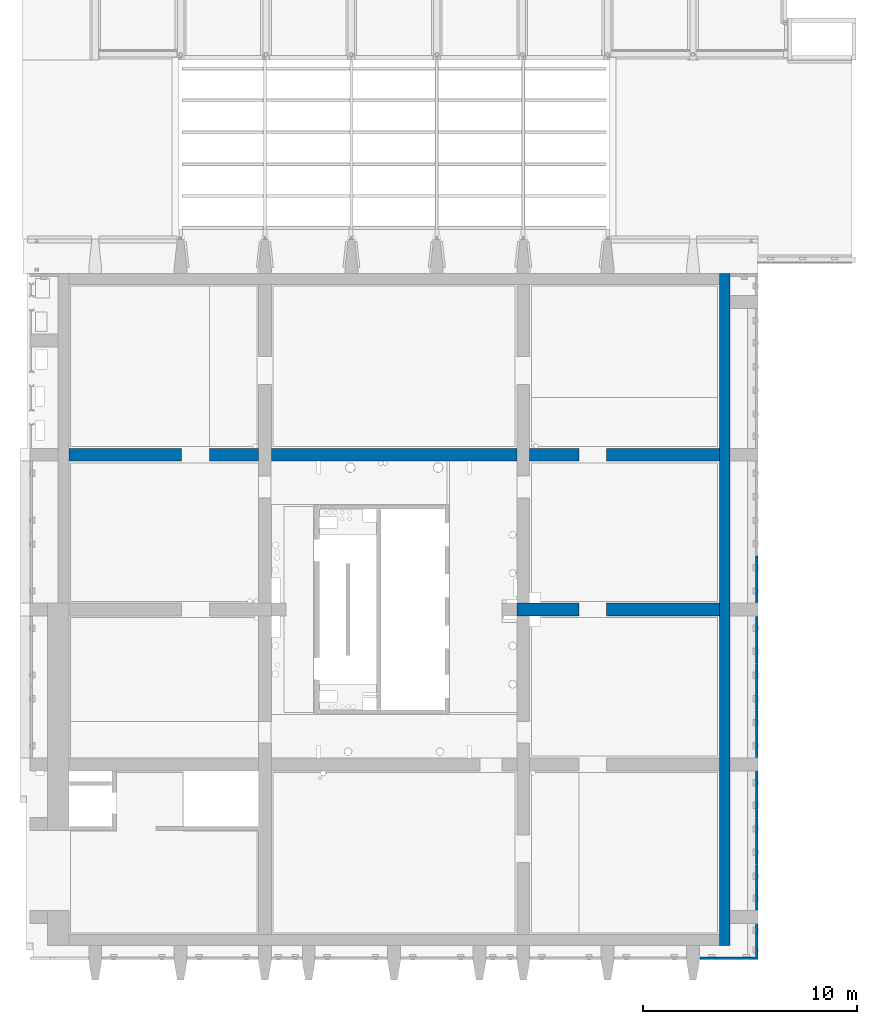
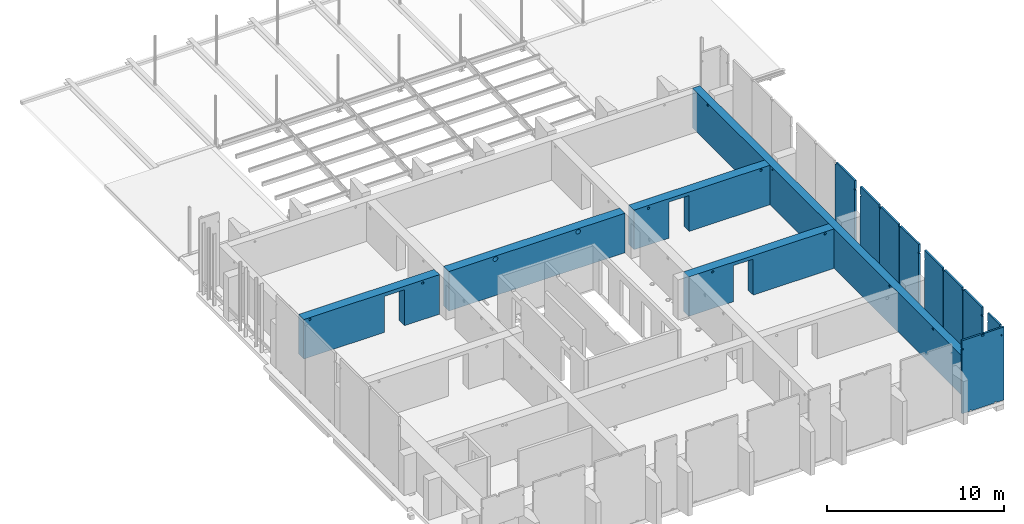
# One storey, part 28 of 31: 12 walls, 54 openings.
"""IFC2X3 building model written with IfcOpenShell, lengths in millimetres."""

from ifc_helpers import new_model, entity, si_unit, converted_unit, derived_unit, direction, frame, frame_2d, origin, origin_2d_with_axis, place, context, subcontext, project, spatial, rectangle, circle, extrude, material, layer, layer_set, layer_usage, type_object, element, save


model = new_model("IFC2X3")

# Units and contexts
model_context = context("Model", 3, precision=0.01, world=origin(), true_north=direction((6.12303176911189e-17, 1.0)))
body_context = subcontext(model_context, "Body", "Model", "MODEL_VIEW")
ifc_project = project(units=[si_unit("LENGTHUNIT", "METRE", prefix="MILLI"), si_unit("AREAUNIT", "SQUARE_METRE"), si_unit("VOLUMEUNIT", "CUBIC_METRE"), converted_unit("PLANEANGLEUNIT", "DEGREE", entity("IfcRatioMeasure", 0.0174532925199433), si_unit("PLANEANGLEUNIT", "RADIAN"), dimensions=[0, 0, 0, 0, 0, 0, 0]), si_unit("MASSUNIT", "GRAM", prefix="KILO"), derived_unit("MASSDENSITYUNIT", [(si_unit("MASSUNIT", "GRAM", prefix="KILO"), 1), (si_unit("LENGTHUNIT", "METRE"), -3)]), si_unit("TIMEUNIT", "SECOND"), si_unit("FREQUENCYUNIT", "HERTZ"), si_unit("THERMODYNAMICTEMPERATUREUNIT", "DEGREE_CELSIUS"), derived_unit("THERMALTRANSMITTANCEUNIT", [(si_unit("MASSUNIT", "GRAM", prefix="KILO"), 1), (si_unit("THERMODYNAMICTEMPERATUREUNIT", "KELVIN"), -1), (si_unit("TIMEUNIT", "SECOND"), -3)]), derived_unit("VOLUMETRICFLOWRATEUNIT", [(si_unit("LENGTHUNIT", "METRE"), 3), (si_unit("TIMEUNIT", "SECOND"), -1)]), si_unit("ELECTRICCURRENTUNIT", "AMPERE"), si_unit("ELECTRICVOLTAGEUNIT", "VOLT"), si_unit("POWERUNIT", "WATT"), si_unit("FORCEUNIT", "NEWTON", prefix="KILO"), si_unit("ILLUMINANCEUNIT", "LUX"), si_unit("LUMINOUSFLUXUNIT", "LUMEN"), si_unit("LUMINOUSINTENSITYUNIT", "CANDELA"), derived_unit("USERDEFINED", [(si_unit("MASSUNIT", "GRAM", prefix="KILO"), -1), (si_unit("LENGTHUNIT", "METRE"), -2), (si_unit("TIMEUNIT", "SECOND"), 3), (si_unit("LUMINOUSFLUXUNIT", "LUMEN"), 1)]), derived_unit("LINEARVELOCITYUNIT", [(si_unit("LENGTHUNIT", "METRE"), 1), (si_unit("TIMEUNIT", "SECOND"), -1)]), si_unit("PRESSUREUNIT", "PASCAL"), derived_unit("USERDEFINED", [(si_unit("LENGTHUNIT", "METRE"), -2), (si_unit("MASSUNIT", "GRAM", prefix="KILO"), 1), (si_unit("TIMEUNIT", "SECOND"), -2)])], contexts=[model_context])

# Site, building, storey
site_placement = place(None, origin())
site = spatial("IfcSite", under=ifc_project, at=site_placement, Name="Default", CompositionType="ELEMENT")
building_placement = place(site_placement, origin())
building = spatial("IfcBuilding", under=site, at=building_placement, Name="niet gebruiken", CompositionType="ELEMENT")
storey_placement = place(building_placement, frame((0.0, 0.0, 12000.0)))
storey = spatial("IfcBuildingStorey", under=building, at=storey_placement, Name="03 derde verdieping", CompositionType="ELEMENT", Elevation=12000.0)

# Wall, openings
ifc_material_1 = material(Name="NLRS_f2_beton ihwg")
ifc_layer_1 = layer(ifc_material_1, 600.0)
ifc_layer_set_1 = layer_set([ifc_layer_1], Name="Basic Wall:NLRS_22.21_WA_beton ihwg d=600_gen")
ifc_layer_usage_1 = layer_usage(ifc_layer_set_1, "AXIS2", "NEGATIVE", 300.0)
wall_type_1 = type_object("IfcWallType", Name="Basic Wall:NLRS_22.21_WA_beton ihwg d=600_gen", PredefinedType="STANDARD", material=ifc_layer_set_1)
wall_1_placement = place(storey_placement, frame((156980.0, 24750.0, -90.0), z_axis=(0.0, 0.0, 1.0), x_axis=(-1.0, 0.0, 0.0)))
wall_1 = element("IfcWallStandardCase", 1, at=wall_1_placement, inside=storey, type_object=wall_type_1, material=ifc_layer_usage_1, Name="Basic Wall:NLRS_22.21_WA_beton ihwg d=600_gen", ObjectType="Basic Wall:NLRS_22.21_WA_beton ihwg d=600_gen", context=body_context, shape_type="SweptSolid", body=[
    extrude(rectangle(XDim=30459.9999999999, YDim=600.000000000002, at=frame_2d((15229.9999999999, -7.95807864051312e-13), x_axis=(-1.0, 0.0))), origin(), (0.0, 0.0, 1.0), 2729.99999999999),
])
opening_1_placement = place(storey_placement, frame((156980.0, 24750.0, -90.0), z_axis=(0.0, 0.0, 1.0), x_axis=(-1.0, 0.0, 0.0)))
element("IfcOpeningElement", 2, at=opening_1_placement, cuts=wall_1, Name="Basic Wall:NLRS_22.21_WA_beton ihwg d=600_gen:1", ObjectType="Opening", context=body_context, shape_type="SweptSolid", body=[
    extrude(rectangle(XDim=2730.0, YDim=599.999999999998, at=frame_2d((-1.02318153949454e-12, -2.1600499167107e-12), x_axis=(1.0, 0.0))), frame((21580.0, 0.0, 1365.0), z_axis=(-1.0, 0.0, 0.0), x_axis=(0.0, 0.0, 1.0)), (0.0, 0.0, 1.0), 600.000000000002),
])
opening_2_placement = place(storey_placement, frame((156980.0, 24750.0, -90.0), z_axis=(0.0, 0.0, 1.0), x_axis=(-1.0, 0.0, 0.0)))
element("IfcOpeningElement", 3, at=opening_2_placement, cuts=wall_1, Name="Basic Wall:NLRS_22.21_WA_beton ihwg d=600_gen:2", ObjectType="Opening", context=body_context, shape_type="SweptSolid", body=[
    extrude(rectangle(XDim=2730.0, YDim=599.999999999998, at=frame_2d((-1.02318153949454e-12, 2.1600499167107e-12), x_axis=(1.0, 0.0))), frame((9480.0, 0.0, 1365.0), z_axis=(-1.0, 0.0, 0.0), x_axis=(0.0, 0.0, 1.0)), (0.0, 0.0, 1.0), 600.000000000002),
])
opening_3_placement = place(wall_1_placement, origin())
element("IfcOpeningElement", 4, at=opening_3_placement, cuts=wall_1, Name="Basic Wall:NLRS_22.21_WA_beton ihwg d=600_gen", ObjectType="Opening", context=body_context, shape_type="SweptSolid", body=[
    extrude(rectangle(XDim=2490.00000000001, YDim=1300.0, at=frame_2d((1.02318153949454e-12, -8.69704308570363e-12), x_axis=(1.0, 0.0))), frame((5930.0, -300.0, 1245.0), z_axis=(0.0, 1.0, 0.0), x_axis=(0.0, 0.0, -1.0)), (0.0, 0.0, 1.0), 600.000000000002),
])
opening_4_placement = place(wall_1_placement, origin())
element("IfcOpeningElement", 5, at=opening_4_placement, cuts=wall_1, Name="Basic Wall:NLRS_22.21_WA_beton ihwg d=600_gen", ObjectType="Opening", context=body_context, shape_type="SweptSolid", body=[
    extrude(rectangle(XDim=2490.0, YDim=1300.0, at=frame_2d((-8.69704308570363e-12, 0.0), x_axis=(0.0, 1.0))), frame((24530.0, -300.0, 1245.0), z_axis=(0.0, 1.0, 0.0), x_axis=(1.0, 0.0, 0.0)), (0.0, 0.0, 1.0), 600.000000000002),
])
opening_5_placement = place(wall_1_placement, origin())
element("IfcOpeningElement", 6, at=opening_5_placement, cuts=wall_1, Name="Basic Wall:NLRS_22.21_WA_beton ihwg d=600_gen", ObjectType="Opening", context=body_context, shape_type="SweptSolid", body=[
    extrude(circle(Radius=80.0, at=origin_2d_with_axis()), frame((7930.0, -300.0, 2540.0), z_axis=(0.0, 1.0, 0.0), x_axis=(-1.0, 0.0, 0.0)), (0.0, 0.0, 1.0), 600.000000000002),
])
opening_6_placement = place(wall_1_placement, origin())
element("IfcOpeningElement", 7, at=opening_6_placement, cuts=wall_1, Name="Basic Wall:NLRS_22.21_WA_beton ihwg d=600_gen", ObjectType="Opening", context=body_context, shape_type="SweptSolid", body=[
    extrude(circle(Radius=80.0, at=origin_2d_with_axis()), frame((580.0, -300.0, 2590.0), z_axis=(0.0, 1.0, 0.0), x_axis=(-1.0, 0.0, 0.0)), (0.0, 0.0, 1.0), 600.000000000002),
])
opening_7_placement = place(wall_1_placement, origin())
element("IfcOpeningElement", 8, at=opening_7_placement, cuts=wall_1, Name="Basic Wall:NLRS_22.21_WA_beton ihwg d=600_gen", ObjectType="Opening", context=body_context, shape_type="SweptSolid", body=[
    extrude(circle(Radius=157.5, at=origin_2d_with_axis()), frame((17930.0001632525, -300.0, 2530.0002334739), z_axis=(0.0, 1.0, 0.0), x_axis=(1.0, 0.0, 0.0)), (0.0, 0.0, 1.0), 600.000000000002),
])
opening_8_placement = place(wall_1_placement, origin())
element("IfcOpeningElement", 9, at=opening_8_placement, cuts=wall_1, Name="Basic Wall:NLRS_22.21_WA_beton ihwg d=600_gen", ObjectType="Opening", context=body_context, shape_type="SweptSolid", body=[
    extrude(circle(Radius=157.5, at=origin_2d_with_axis()), frame((12530.0, -300.0, 2530.00023347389), z_axis=(0.0, 1.0, 0.0), x_axis=(1.0, 0.0, 0.0)), (0.0, 0.0, 1.0), 600.000000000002),
])
opening_9_placement = place(wall_1_placement, origin())
element("IfcOpeningElement", 10, at=opening_9_placement, cuts=wall_1, Name="Basic Wall:NLRS_22.21_WA_beton ihwg d=600_gen", ObjectType="Opening", context=body_context, shape_type="SweptSolid", body=[
    extrude(circle(Radius=80.0, at=origin_2d_with_axis()), frame((22680.0, -300.0, 2540.0), z_axis=(0.0, 1.0, 0.0), x_axis=(-1.0, 0.0, 0.0)), (0.0, 0.0, 1.0), 600.000000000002),
])
opening_10_placement = place(wall_1_placement, origin())
element("IfcOpeningElement", 11, at=opening_10_placement, cuts=wall_1, Name="Basic Wall:NLRS_22.21_WA_beton ihwg d=600_gen", ObjectType="Opening", context=body_context, shape_type="SweptSolid", body=[
    extrude(circle(Radius=80.0, at=origin_2d_with_axis()), frame((30050.0, -300.0, 2590.0), z_axis=(0.0, 1.0, 0.0), x_axis=(-1.0, 0.0, 0.0)), (0.0, 0.0, 1.0), 600.000000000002),
])

ifc_layer_usage_2 = layer_usage(ifc_layer_set_1, "AXIS2", "NEGATIVE", 300.0)
wall_2_placement = place(storey_placement, frame((147500.0, 17500.0, -90.0)))
wall_2 = element("IfcWallStandardCase", 12, at=wall_2_placement, inside=storey, type_object=wall_type_1, material=ifc_layer_usage_2, Name="Basic Wall:NLRS_22.21_WA_beton ihwg d=600_gen", ObjectType="Basic Wall:NLRS_22.21_WA_beton ihwg d=600_gen", context=body_context, shape_type="SweptSolid", body=[
    extrude(rectangle(XDim=9479.99999999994, YDim=600.000000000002, at=frame_2d((4739.99999999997, -2.27373675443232e-13), x_axis=(-1.0, 0.0))), origin(), (0.0, 0.0, 1.0), 2729.99999999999),
])
opening_11_placement = place(wall_2_placement, origin())
element("IfcOpeningElement", 13, at=opening_11_placement, cuts=wall_2, Name="Basic Wall:NLRS_22.21_WA_beton ihwg d=600_gen", ObjectType="Opening", context=body_context, shape_type="SweptSolid", body=[
    extrude(rectangle(XDim=2490.00000000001, YDim=1300.0, at=frame_2d((0.0, 1.02318153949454e-12), x_axis=(0.0, 1.0))), frame((3550.0, -300.0, 1245.0), z_axis=(0.0, 1.0, 0.0), x_axis=(1.0, 0.0, 0.0)), (0.0, 0.0, 1.0), 599.999999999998),
])
opening_12_placement = place(wall_2_placement, origin())
element("IfcOpeningElement", 14, at=opening_12_placement, cuts=wall_2, Name="Basic Wall:NLRS_22.21_WA_beton ihwg d=600_gen", ObjectType="Opening", context=body_context, shape_type="SweptSolid", body=[
    extrude(circle(Radius=80.0, at=origin_2d_with_axis()), frame((1550.0, -300.0, 2540.0), z_axis=(0.0, 1.0, 0.0), x_axis=(1.0, 0.0, 0.0)), (0.0, 0.0, 1.0), 600.0),
])
opening_13_placement = place(wall_2_placement, origin())
element("IfcOpeningElement", 15, at=opening_13_placement, cuts=wall_2, Name="Basic Wall:NLRS_22.21_WA_beton ihwg d=600_gen", ObjectType="Opening", context=body_context, shape_type="SweptSolid", body=[
    extrude(circle(Radius=80.0, at=origin_2d_with_axis()), frame((8900.0, -300.0, 2590.0), z_axis=(0.0, 1.0, 0.0), x_axis=(1.0, 0.0, 0.0)), (0.0, 0.0, 1.0), 600.0),
])

ifc_layer_2 = layer(ifc_material_1, 500.0)
ifc_layer_set_2 = layer_set([ifc_layer_2], Name="Basic Wall:NLRS_21.21_WA_beton ihwg d=500_gen")
ifc_layer_usage_3 = layer_usage(ifc_layer_set_2, "AXIS2", "NEGATIVE", 250.0)
wall_type_2 = type_object("IfcWallType", Name="Basic Wall:NLRS_21.21_WA_beton ihwg d=500_gen", PredefinedType="STANDARD", material=ifc_layer_set_2)
wall_3_placement = place(storey_placement, frame((157230.0, 33230.0, -90.0), z_axis=(0.0, 0.0, 1.0), x_axis=(0.0, -1.0, 0.0)))
wall_3 = element("IfcWallStandardCase", 16, at=wall_3_placement, inside=storey, type_object=wall_type_2, material=ifc_layer_usage_3, Name="Basic Wall:NLRS_21.21_WA_beton ihwg d=500_gen", ObjectType="Basic Wall:NLRS_21.21_WA_beton ihwg d=500_gen", context=body_context, shape_type="SweptSolid", body=[
    extrude(rectangle(XDim=31460.0000000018, YDim=500.000000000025, at=frame_2d((15730.0000000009, -1.27897692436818e-13), x_axis=(-1.0, 0.0))), origin(), (0.0, 0.0, 1.0), 2729.99999999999),
])
opening_14_placement = place(wall_3_placement, origin())
element("IfcOpeningElement", 17, at=opening_14_placement, cuts=wall_3, Name="Basic Wall:NLRS_21.21_WA_beton ihwg d=500_gen", ObjectType="Opening", context=body_context, shape_type="SweptSolid", body=[
    extrude(circle(Radius=80.0, at=origin_2d_with_axis()), frame((1725.0, -350.0, 2590.0), z_axis=(0.0, 1.0, 0.0), x_axis=(-1.0, 0.0, 0.0)), (0.0, 0.0, 1.0), 600.000000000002),
])
opening_15_placement = place(wall_3_placement, origin())
element("IfcOpeningElement", 18, at=opening_15_placement, cuts=wall_3, Name="Basic Wall:NLRS_21.21_WA_beton ihwg d=500_gen", ObjectType="Opening", context=body_context, shape_type="SweptSolid", body=[
    extrude(circle(Radius=55.0, at=origin_2d_with_axis()), frame((9060.0, -350.0, 2590.0), z_axis=(0.0, 1.0, 0.0), x_axis=(-1.0, 0.0, 0.0)), (0.0, 0.0, 1.0), 600.000000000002),
])
opening_16_placement = place(wall_3_placement, origin())
element("IfcOpeningElement", 19, at=opening_16_placement, cuts=wall_3, Name="Basic Wall:NLRS_21.21_WA_beton ihwg d=500_gen", ObjectType="Opening", context=body_context, shape_type="SweptSolid", body=[
    extrude(circle(Radius=80.0, at=origin_2d_with_axis()), frame((22305.0, -350.0, 2590.0), z_axis=(0.0, 1.0, 0.0), x_axis=(-1.0, 0.0, 0.0)), (0.0, 0.0, 1.0), 600.000000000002),
])
opening_17_placement = place(wall_3_placement, origin())
element("IfcOpeningElement", 20, at=opening_17_placement, cuts=wall_3, Name="Basic Wall:NLRS_21.21_WA_beton ihwg d=500_gen", ObjectType="Opening", context=body_context, shape_type="SweptSolid", body=[
    extrude(circle(Radius=80.0, at=origin_2d_with_axis()), frame((27215.0, -350.0, 2590.0), z_axis=(0.0, 1.0, 0.0), x_axis=(-1.0, 0.0, 0.0)), (0.0, 0.0, 1.0), 600.000000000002),
])

ifc_material_2 = material(Name="NLRS_f2_beton prefab")
ifc_layer_3 = layer(ifc_material_2, 120.0)
ifc_layer_set_3 = layer_set([ifc_layer_3], Name="Basic Wall:NLRS_21.21_WA_beton prefab d=120_gen")
ifc_layer_usage_4 = layer_usage(ifc_layer_set_3, "AXIS2", "NEGATIVE", 60.0)
wall_type_3 = type_object("IfcWallType", Name="Basic Wall:NLRS_21.21_WA_beton prefab d=120_gen", PredefinedType="STANDARD", material=ifc_layer_set_3)
wall_4_placement = place(storey_placement, frame((158800.0, 1174.0, -60.0), z_axis=(0.0, 0.0, 1.0), x_axis=(-1.0, 0.0, 0.0)))
wall_4 = element("IfcWallStandardCase", 21, at=wall_4_placement, inside=storey, type_object=wall_type_3, material=ifc_layer_usage_4, Name="Basic Wall:NLRS_21.21_WA_beton prefab d=120_gen", ObjectType="Basic Wall:NLRS_21.21_WA_beton prefab d=120_gen", context=body_context, shape_type="SweptSolid", body=[
    extrude(rectangle(XDim=2729.99999999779, YDim=120.0, at=frame_2d((1364.99999999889, -1.03028696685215e-13), x_axis=(-1.0, 0.0))), origin(), (0.0, 0.0, 1.0), 5045.00000000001),
])
opening_18_placement = place(wall_4_placement, origin())
element("IfcOpeningElement", 22, at=opening_18_placement, cuts=wall_4, Name="Basic Wall:NLRS_21.21_WA_beton prefab d=120_gen", ObjectType="Opening", context=body_context, shape_type="SweptSolid", body=[
    extrude(rectangle(XDim=150.000000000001, YDim=189.999999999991, at=origin_2d_with_axis()), frame((1390.0, -79.0, 4970.0), z_axis=(0.0, 1.0, 0.0), x_axis=(0.0, 0.0, -1.0)), (0.0, 0.0, 1.0), 158.000000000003),
])
opening_19_placement = place(wall_4_placement, origin())
element("IfcOpeningElement", 23, at=opening_19_placement, cuts=wall_4, Name="Basic Wall:NLRS_21.21_WA_beton prefab d=120_gen", ObjectType="Opening", context=body_context, shape_type="SweptSolid", body=[
    extrude(rectangle(XDim=99.9999999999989, YDim=80.0000000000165, at=frame_2d((-2.16715534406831e-12, 0.0), x_axis=(1.0, 0.0))), frame((2690.0, -75.0, 4445.0), z_axis=(0.0, 1.0, 0.0), x_axis=(0.0, 0.0, -1.0)), (0.0, 0.0, 1.0), 150.000000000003),
])
opening_20_placement = place(wall_4_placement, origin())
element("IfcOpeningElement", 24, at=opening_20_placement, cuts=wall_4, Name="Basic Wall:NLRS_21.21_WA_beton prefab d=120_gen", ObjectType="Opening", context=body_context, shape_type="SweptSolid", body=[
    extrude(rectangle(XDim=79.9999999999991, YDim=99.9999999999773, at=frame_2d((1.732658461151e-11, 0.0), x_axis=(0.0, 1.0))), frame((2180.0, -75.0, 40.0), z_axis=(0.0, 1.0, 0.0), x_axis=(1.0, 0.0, 0.0)), (0.0, 0.0, 1.0), 150.000000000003),
])
opening_21_placement = place(wall_4_placement, origin())
element("IfcOpeningElement", 25, at=opening_21_placement, cuts=wall_4, Name="Basic Wall:NLRS_21.21_WA_beton prefab d=120_gen", ObjectType="Opening", context=body_context, shape_type="SweptSolid", body=[
    extrude(rectangle(XDim=79.9999999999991, YDim=100.000000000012, at=origin_2d_with_axis()), frame((550.0, -75.0, 40.0), z_axis=(0.0, 1.0, 0.0), x_axis=(0.0, 0.0, -1.0)), (0.0, 0.0, 1.0), 150.000000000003),
])
opening_22_placement = place(wall_4_placement, origin())
element("IfcOpeningElement", 26, at=opening_22_placement, cuts=wall_4, Name="Basic Wall:NLRS_21.21_WA_beton prefab d=120_gen", ObjectType="Opening", context=body_context, shape_type="SweptSolid", body=[
    extrude(rectangle(XDim=99.9999999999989, YDim=79.9999999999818, at=frame_2d((1.732658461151e-11, -2.16715534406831e-12), x_axis=(0.0, 1.0))), frame((170.0, -75.0, 4535.0), z_axis=(0.0, 1.0, 0.0), x_axis=(1.0, 0.0, 0.0)), (0.0, 0.0, 1.0), 150.000000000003),
])

ifc_layer_usage_5 = layer_usage(ifc_layer_set_3, "AXIS2", "POSITIVE", -60.0)
wall_5_placement = place(storey_placement, frame((158740.0, 3420.0, -60.0), z_axis=(0.0, 0.0, 1.0), x_axis=(0.0, 1.0, 0.0)))
wall_5 = element("IfcWallStandardCase", 27, at=wall_5_placement, inside=storey, type_object=wall_type_3, material=ifc_layer_usage_5, Name="Basic Wall:NLRS_21.21_WA_beton prefab d=120_gen", ObjectType="Basic Wall:NLRS_21.21_WA_beton prefab d=120_gen", context=body_context, shape_type="SweptSolid", body=[
    extrude(rectangle(XDim=2140.0, YDim=119.999999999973, at=frame_2d((1070.0, 0.0), x_axis=(-1.0, 0.0))), origin(), (0.0, 0.0, 1.0), 5045.00000000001),
])
opening_23_placement = place(wall_5_placement, origin())
element("IfcOpeningElement", 28, at=opening_23_placement, cuts=wall_5, Name="Basic Wall:NLRS_21.21_WA_beton prefab d=120_gen", ObjectType="Opening", context=body_context, shape_type="SweptSolid", body=[
    extrude(rectangle(XDim=79.9999999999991, YDim=100.000000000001, at=frame_2d((0.0, -5.40012479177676e-13), x_axis=(1.0, 0.0))), frame((1590.0, -75.0, 40.0), z_axis=(0.0, 1.0, 0.0), x_axis=(0.0, 0.0, -1.0)), (0.0, 0.0, 1.0), 150.000000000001),
])
opening_24_placement = place(wall_5_placement, origin())
element("IfcOpeningElement", 29, at=opening_24_placement, cuts=wall_5, Name="Basic Wall:NLRS_21.21_WA_beton prefab d=120_gen", ObjectType="Opening", context=body_context, shape_type="SweptSolid", body=[
    extrude(rectangle(XDim=79.9999999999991, YDim=100.000000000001, at=frame_2d((-2.73558953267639e-13, 0.0), x_axis=(0.0, 1.0))), frame((550.0, -75.0, 40.0), z_axis=(0.0, 1.0, 0.0), x_axis=(1.0, 0.0, 0.0)), (0.0, 0.0, 1.0), 150.000000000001),
])
opening_25_placement = place(wall_5_placement, origin())
element("IfcOpeningElement", 30, at=opening_25_placement, cuts=wall_5, Name="Basic Wall:NLRS_21.21_WA_beton prefab d=120_gen", ObjectType="Opening", context=body_context, shape_type="SweptSolid", body=[
    extrude(rectangle(XDim=100.000000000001, YDim=80.0000000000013, at=frame_2d((-2.16715534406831e-12, -2.70006239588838e-13), x_axis=(1.0, 0.0))), frame((40.0, -75.0, 4445.0), z_axis=(0.0, 1.0, 0.0), x_axis=(0.0, 0.0, -1.0)), (0.0, 0.0, 1.0), 150.000000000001),
])
opening_26_placement = place(wall_5_placement, origin())
element("IfcOpeningElement", 31, at=opening_26_placement, cuts=wall_5, Name="Basic Wall:NLRS_21.21_WA_beton prefab d=120_gen", ObjectType="Opening", context=body_context, shape_type="SweptSolid", body=[
    extrude(rectangle(XDim=163.0, YDim=90.0000000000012, at=frame_2d((5.43565192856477e-13, -1.08713038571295e-12), x_axis=(0.0, 1.0))), frame((2095.0, -75.0, 4963.49988555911), z_axis=(0.0, 1.0, 0.0), x_axis=(1.0, 0.0, 0.0)), (0.0, 0.0, 1.0), 150.000000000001),
])

ifc_layer_usage_6 = layer_usage(ifc_layer_set_3, "AXIS2", "NEGATIVE", 60.0)
wall_6_placement = place(storey_placement, frame((158740.0, 9930.0, -60.0), z_axis=(0.0, 0.0, 1.0), x_axis=(0.0, -1.0, 0.0)))
wall_6 = element("IfcWallStandardCase", 32, at=wall_6_placement, inside=storey, type_object=wall_type_3, material=ifc_layer_usage_6, Name="Basic Wall:NLRS_21.21_WA_beton prefab d=120_gen", ObjectType="Basic Wall:NLRS_21.21_WA_beton prefab d=120_gen", context=body_context, shape_type="SweptSolid", body=[
    extrude(rectangle(XDim=2140.00000000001, YDim=119.999999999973, at=frame_2d((1070.0, 0.0), x_axis=(-1.0, 0.0))), origin(), (0.0, 0.0, 1.0), 5045.00000000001),
])
opening_27_placement = place(wall_6_placement, origin())
element("IfcOpeningElement", 33, at=opening_27_placement, cuts=wall_6, Name="Basic Wall:NLRS_21.21_WA_beton prefab d=120_gen", ObjectType="Opening", context=body_context, shape_type="SweptSolid", body=[
    extrude(rectangle(XDim=79.9999999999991, YDim=100.000000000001, at=frame_2d((0.0, 0.0), x_axis=(0.0, 1.0))), frame((1590.0, -75.0, 40.0), z_axis=(0.0, 1.0, 0.0), x_axis=(1.0, 0.0, 0.0)), (0.0, 0.0, 1.0), 150.000000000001),
])
opening_28_placement = place(wall_6_placement, origin())
element("IfcOpeningElement", 34, at=opening_28_placement, cuts=wall_6, Name="Basic Wall:NLRS_21.21_WA_beton prefab d=120_gen", ObjectType="Opening", context=body_context, shape_type="SweptSolid", body=[
    extrude(rectangle(XDim=79.9999999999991, YDim=100.000000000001, at=origin_2d_with_axis()), frame((550.0, -75.0, 40.0), z_axis=(0.0, 1.0, 0.0), x_axis=(0.0, 0.0, -1.0)), (0.0, 0.0, 1.0), 150.000000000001),
])
opening_29_placement = place(wall_6_placement, origin())
element("IfcOpeningElement", 35, at=opening_29_placement, cuts=wall_6, Name="Basic Wall:NLRS_21.21_WA_beton prefab d=120_gen", ObjectType="Opening", context=body_context, shape_type="SweptSolid", body=[
    extrude(rectangle(XDim=99.9999999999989, YDim=80.0000000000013, at=frame_2d((-1.08357767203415e-12, 1.08357767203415e-12), x_axis=(0.0, 1.0))), frame((40.0, -75.0, 4445.0), z_axis=(0.0, 1.0, 0.0), x_axis=(1.0, 0.0, 0.0)), (0.0, 0.0, 1.0), 150.000000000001),
])
opening_30_placement = place(wall_6_placement, origin())
element("IfcOpeningElement", 36, at=opening_30_placement, cuts=wall_6, Name="Basic Wall:NLRS_21.21_WA_beton prefab d=120_gen", ObjectType="Opening", context=body_context, shape_type="SweptSolid", body=[
    extrude(rectangle(XDim=163.0, YDim=90.0000000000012, at=frame_2d((1.08713038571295e-12, 0.0), x_axis=(1.0, 0.0))), frame((2095.0, -75.0, 4963.4998855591), z_axis=(0.0, 1.0, 0.0), x_axis=(0.0, 0.0, -1.0)), (0.0, 0.0, 1.0), 150.000000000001),
])

ifc_layer_usage_7 = layer_usage(ifc_layer_set_3, "AXIS2", "POSITIVE", -60.0)
wall_7_placement = place(storey_placement, frame((158740.0, 5580.0, -60.0), z_axis=(0.0, 0.0, 1.0), x_axis=(0.0, 1.0, 0.0)))
wall_7 = element("IfcWallStandardCase", 37, at=wall_7_placement, inside=storey, type_object=wall_type_3, material=ifc_layer_usage_7, Name="Basic Wall:NLRS_21.21_WA_beton prefab d=120_gen", ObjectType="Basic Wall:NLRS_21.21_WA_beton prefab d=120_gen", context=body_context, shape_type="SweptSolid", body=[
    extrude(rectangle(XDim=2190.0, YDim=119.999999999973, at=frame_2d((1095.0, 0.0), x_axis=(-1.0, 0.0))), origin(), (0.0, 0.0, 1.0), 5045.00000000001),
])
opening_31_placement = place(wall_7_placement, origin())
element("IfcOpeningElement", 38, at=opening_31_placement, cuts=wall_7, Name="Basic Wall:NLRS_21.21_WA_beton prefab d=120_gen", ObjectType="Opening", context=body_context, shape_type="SweptSolid", body=[
    extrude(rectangle(XDim=79.9999999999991, YDim=100.000000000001, at=frame_2d((0.0, -5.40012479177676e-13), x_axis=(1.0, 0.0))), frame((1640.0, -75.0, 40.0), z_axis=(0.0, 1.0, 0.0), x_axis=(0.0, 0.0, -1.0)), (0.0, 0.0, 1.0), 150.000000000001),
])
opening_32_placement = place(wall_7_placement, origin())
element("IfcOpeningElement", 39, at=opening_32_placement, cuts=wall_7, Name="Basic Wall:NLRS_21.21_WA_beton prefab d=120_gen", ObjectType="Opening", context=body_context, shape_type="SweptSolid", body=[
    extrude(rectangle(XDim=79.9999999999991, YDim=100.000000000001, at=frame_2d((5.40012479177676e-13, 0.0), x_axis=(0.0, 1.0))), frame((550.0, -75.0, 40.0), z_axis=(0.0, 1.0, 0.0), x_axis=(1.0, 0.0, 0.0)), (0.0, 0.0, 1.0), 150.000000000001),
])
opening_33_placement = place(wall_7_placement, origin())
element("IfcOpeningElement", 40, at=opening_33_placement, cuts=wall_7, Name="Basic Wall:NLRS_21.21_WA_beton prefab d=120_gen", ObjectType="Opening", context=body_context, shape_type="SweptSolid", body=[
    extrude(rectangle(XDim=163.0, YDim=90.0000000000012, at=frame_2d((5.43565192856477e-13, -1.08713038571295e-12), x_axis=(0.0, 1.0))), frame((2145.0, -75.0, 4963.49988555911), z_axis=(0.0, 1.0, 0.0), x_axis=(1.0, 0.0, 0.0)), (0.0, 0.0, 1.0), 150.000000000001),
])
opening_34_placement = place(wall_7_placement, origin())
element("IfcOpeningElement", 41, at=opening_34_placement, cuts=wall_7, Name="Basic Wall:NLRS_21.21_WA_beton prefab d=120_gen", ObjectType="Opening", context=body_context, shape_type="SweptSolid", body=[
    extrude(rectangle(XDim=163.0, YDim=90.0000000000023, at=frame_2d((1.08713038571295e-12, 0.0), x_axis=(1.0, 0.0))), frame((45.0, -75.0, 4963.49988555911), z_axis=(0.0, 1.0, 0.0), x_axis=(0.0, 0.0, -1.0)), (0.0, 0.0, 1.0), 150.000000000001),
])

ifc_layer_usage_8 = layer_usage(ifc_layer_set_3, "AXIS2", "POSITIVE", -60.0)
wall_8_placement = place(storey_placement, frame((158740.0, 12780.0, -60.0), z_axis=(0.0, 0.0, 1.0), x_axis=(0.0, 1.0, 0.0)))
wall_8 = element("IfcWallStandardCase", 42, at=wall_8_placement, inside=storey, type_object=wall_type_3, material=ifc_layer_usage_8, Name="Basic Wall:NLRS_21.21_WA_beton prefab d=120_gen", ObjectType="Basic Wall:NLRS_21.21_WA_beton prefab d=120_gen", context=body_context, shape_type="SweptSolid", body=[
    extrude(rectangle(XDim=2190.0, YDim=119.999999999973, at=frame_2d((1095.0, 0.0), x_axis=(-1.0, 0.0))), origin(), (0.0, 0.0, 1.0), 5045.00000000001),
])
opening_35_placement = place(wall_8_placement, origin())
element("IfcOpeningElement", 43, at=opening_35_placement, cuts=wall_8, Name="Basic Wall:NLRS_21.21_WA_beton prefab d=120_gen", ObjectType="Opening", context=body_context, shape_type="SweptSolid", body=[
    extrude(rectangle(XDim=79.9999999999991, YDim=100.000000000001, at=frame_2d((0.0, -1.08357767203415e-12), x_axis=(1.0, 0.0))), frame((1640.0, -75.0, 40.0), z_axis=(0.0, 1.0, 0.0), x_axis=(0.0, 0.0, -1.0)), (0.0, 0.0, 1.0), 150.000000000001),
])
opening_36_placement = place(wall_8_placement, origin())
element("IfcOpeningElement", 44, at=opening_36_placement, cuts=wall_8, Name="Basic Wall:NLRS_21.21_WA_beton prefab d=120_gen", ObjectType="Opening", context=body_context, shape_type="SweptSolid", body=[
    extrude(rectangle(XDim=79.9999999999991, YDim=100.000000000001, at=frame_2d((-1.08357767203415e-12, 0.0), x_axis=(0.0, 1.0))), frame((550.0, -75.0, 40.0), z_axis=(0.0, 1.0, 0.0), x_axis=(1.0, 0.0, 0.0)), (0.0, 0.0, 1.0), 150.000000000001),
])
opening_37_placement = place(wall_8_placement, origin())
element("IfcOpeningElement", 45, at=opening_37_placement, cuts=wall_8, Name="Basic Wall:NLRS_21.21_WA_beton prefab d=120_gen", ObjectType="Opening", context=body_context, shape_type="SweptSolid", body=[
    extrude(rectangle(XDim=163.0, YDim=90.0000000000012, at=frame_2d((0.0, -1.08713038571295e-12), x_axis=(0.0, 1.0))), frame((2145.0, -75.0, 4963.4998855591), z_axis=(0.0, 1.0, 0.0), x_axis=(1.0, 0.0, 0.0)), (0.0, 0.0, 1.0), 150.000000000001),
])
opening_38_placement = place(wall_8_placement, origin())
element("IfcOpeningElement", 46, at=opening_38_placement, cuts=wall_8, Name="Basic Wall:NLRS_21.21_WA_beton prefab d=120_gen", ObjectType="Opening", context=body_context, shape_type="SweptSolid", body=[
    extrude(rectangle(XDim=163.0, YDim=90.0000000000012, at=frame_2d((1.08713038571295e-12, 0.0), x_axis=(1.0, 0.0))), frame((45.0, -75.0, 4963.4998855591), z_axis=(0.0, 1.0, 0.0), x_axis=(0.0, 0.0, -1.0)), (0.0, 0.0, 1.0), 150.000000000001),
])

ifc_layer_usage_9 = layer_usage(ifc_layer_set_3, "AXIS2", "POSITIVE", -60.0)
wall_9_placement = place(storey_placement, frame((158740.0, 10570.0, -60.0), z_axis=(0.0, 0.0, 1.0), x_axis=(0.0, 1.0, 0.0)))
wall_9 = element("IfcWallStandardCase", 47, at=wall_9_placement, inside=storey, type_object=wall_type_3, material=ifc_layer_usage_9, Name="Basic Wall:NLRS_21.21_WA_beton prefab d=120_gen", ObjectType="Basic Wall:NLRS_21.21_WA_beton prefab d=120_gen", context=body_context, shape_type="SweptSolid", body=[
    extrude(rectangle(XDim=2190.0, YDim=119.999999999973, at=frame_2d((1095.0, 0.0), x_axis=(-1.0, 0.0))), origin(), (0.0, 0.0, 1.0), 5045.00000000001),
])
opening_39_placement = place(wall_9_placement, origin())
element("IfcOpeningElement", 48, at=opening_39_placement, cuts=wall_9, Name="Basic Wall:NLRS_21.21_WA_beton prefab d=120_gen", ObjectType="Opening", context=body_context, shape_type="SweptSolid", body=[
    extrude(rectangle(XDim=79.9999999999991, YDim=100.000000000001, at=frame_2d((0.0, 1.08357767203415e-12), x_axis=(1.0, 0.0))), frame((1640.0, -75.0, 40.0), z_axis=(0.0, 1.0, 0.0), x_axis=(0.0, 0.0, -1.0)), (0.0, 0.0, 1.0), 150.000000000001),
])
opening_40_placement = place(wall_9_placement, origin())
element("IfcOpeningElement", 49, at=opening_40_placement, cuts=wall_9, Name="Basic Wall:NLRS_21.21_WA_beton prefab d=120_gen", ObjectType="Opening", context=body_context, shape_type="SweptSolid", body=[
    extrude(rectangle(XDim=79.9999999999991, YDim=100.000000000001, at=frame_2d((1.08357767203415e-12, 0.0), x_axis=(0.0, 1.0))), frame((550.0, -75.0, 40.0), z_axis=(0.0, 1.0, 0.0), x_axis=(1.0, 0.0, 0.0)), (0.0, 0.0, 1.0), 150.000000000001),
])
opening_41_placement = place(wall_9_placement, origin())
element("IfcOpeningElement", 50, at=opening_41_placement, cuts=wall_9, Name="Basic Wall:NLRS_21.21_WA_beton prefab d=120_gen", ObjectType="Opening", context=body_context, shape_type="SweptSolid", body=[
    extrude(rectangle(XDim=100.000000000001, YDim=80.0000000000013, at=frame_2d((-2.16715534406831e-12, -1.08357767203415e-12), x_axis=(1.0, 0.0))), frame((40.0, -75.0, 4445.0), z_axis=(0.0, 1.0, 0.0), x_axis=(0.0, 0.0, -1.0)), (0.0, 0.0, 1.0), 150.000000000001),
])
opening_42_placement = place(wall_9_placement, origin())
element("IfcOpeningElement", 51, at=opening_42_placement, cuts=wall_9, Name="Basic Wall:NLRS_21.21_WA_beton prefab d=120_gen", ObjectType="Opening", context=body_context, shape_type="SweptSolid", body=[
    extrude(rectangle(XDim=163.0, YDim=90.0000000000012, at=frame_2d((0.0, -1.08713038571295e-12), x_axis=(0.0, 1.0))), frame((2145.0, -75.0, 4963.4998855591), z_axis=(0.0, 1.0, 0.0), x_axis=(1.0, 0.0, 0.0)), (0.0, 0.0, 1.0), 150.000000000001),
])

ifc_layer_usage_10 = layer_usage(ifc_layer_set_3, "AXIS2", "NEGATIVE", 60.0)
wall_10_placement = place(storey_placement, frame((158740.0, 17180.0, -60.0), z_axis=(0.0, 0.0, 1.0), x_axis=(0.0, -1.0, 0.0)))
wall_10 = element("IfcWallStandardCase", 52, at=wall_10_placement, inside=storey, type_object=wall_type_3, material=ifc_layer_usage_10, Name="Basic Wall:NLRS_21.21_WA_beton prefab d=120_gen", ObjectType="Basic Wall:NLRS_21.21_WA_beton prefab d=120_gen", context=body_context, shape_type="SweptSolid", body=[
    extrude(rectangle(XDim=2190.0, YDim=119.999999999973, at=frame_2d((1095.0, 0.0), x_axis=(-1.0, 0.0))), origin(), (0.0, 0.0, 1.0), 5045.00000000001),
])
opening_43_placement = place(wall_10_placement, origin())
element("IfcOpeningElement", 53, at=opening_43_placement, cuts=wall_10, Name="Basic Wall:NLRS_21.21_WA_beton prefab d=120_gen", ObjectType="Opening", context=body_context, shape_type="SweptSolid", body=[
    extrude(rectangle(XDim=79.9999999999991, YDim=100.000000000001, at=frame_2d((-1.08357767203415e-12, 0.0), x_axis=(0.0, 1.0))), frame((1640.0, -75.0, 40.0), z_axis=(0.0, 1.0, 0.0), x_axis=(1.0, 0.0, 0.0)), (0.0, 0.0, 1.0), 150.000000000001),
])
opening_44_placement = place(wall_10_placement, origin())
element("IfcOpeningElement", 54, at=opening_44_placement, cuts=wall_10, Name="Basic Wall:NLRS_21.21_WA_beton prefab d=120_gen", ObjectType="Opening", context=body_context, shape_type="SweptSolid", body=[
    extrude(rectangle(XDim=79.9999999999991, YDim=100.000000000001, at=frame_2d((0.0, -1.08357767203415e-12), x_axis=(1.0, 0.0))), frame((550.0, -75.0, 40.0), z_axis=(0.0, 1.0, 0.0), x_axis=(0.0, 0.0, -1.0)), (0.0, 0.0, 1.0), 150.000000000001),
])
opening_45_placement = place(wall_10_placement, origin())
element("IfcOpeningElement", 55, at=opening_45_placement, cuts=wall_10, Name="Basic Wall:NLRS_21.21_WA_beton prefab d=120_gen", ObjectType="Opening", context=body_context, shape_type="SweptSolid", body=[
    extrude(rectangle(XDim=99.9999999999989, YDim=80.0000000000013, at=frame_2d((-1.08357767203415e-12, 1.08357767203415e-12), x_axis=(0.0, 1.0))), frame((40.0, -75.0, 4445.0), z_axis=(0.0, 1.0, 0.0), x_axis=(1.0, 0.0, 0.0)), (0.0, 0.0, 1.0), 150.000000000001),
])
opening_46_placement = place(wall_10_placement, origin())
element("IfcOpeningElement", 56, at=opening_46_placement, cuts=wall_10, Name="Basic Wall:NLRS_21.21_WA_beton prefab d=120_gen", ObjectType="Opening", context=body_context, shape_type="SweptSolid", body=[
    extrude(rectangle(XDim=163.0, YDim=90.0000000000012, at=frame_2d((1.08713038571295e-12, 0.0), x_axis=(1.0, 0.0))), frame((2145.0, -75.0, 4963.4998855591), z_axis=(0.0, 1.0, 0.0), x_axis=(0.0, 0.0, -1.0)), (0.0, 0.0, 1.0), 150.000000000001),
])

ifc_layer_usage_11 = layer_usage(ifc_layer_set_3, "AXIS2", "POSITIVE", -60.0)
wall_11_placement = place(storey_placement, frame((158740.0, 17820.0, -60.0), z_axis=(0.0, 0.0, 1.0), x_axis=(0.0, 1.0, 0.0)))
wall_11 = element("IfcWallStandardCase", 57, at=wall_11_placement, inside=storey, type_object=wall_type_3, material=ifc_layer_usage_11, Name="Basic Wall:NLRS_21.21_WA_beton prefab d=120_gen", ObjectType="Basic Wall:NLRS_21.21_WA_beton prefab d=120_gen", context=body_context, shape_type="SweptSolid", body=[
    extrude(rectangle(XDim=2190.0, YDim=119.999999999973, at=frame_2d((1095.0, 0.0), x_axis=(-1.0, 0.0))), origin(), (0.0, 0.0, 1.0), 5045.00000000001),
])
opening_47_placement = place(wall_11_placement, origin())
element("IfcOpeningElement", 58, at=opening_47_placement, cuts=wall_11, Name="Basic Wall:NLRS_21.21_WA_beton prefab d=120_gen", ObjectType="Opening", context=body_context, shape_type="SweptSolid", body=[
    extrude(rectangle(XDim=79.9999999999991, YDim=100.000000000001, at=frame_2d((0.0, 1.08357767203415e-12), x_axis=(1.0, 0.0))), frame((1640.0, -75.0, 40.0), z_axis=(0.0, 1.0, 0.0), x_axis=(0.0, 0.0, -1.0)), (0.0, 0.0, 1.0), 150.000000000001),
])
opening_48_placement = place(wall_11_placement, origin())
element("IfcOpeningElement", 59, at=opening_48_placement, cuts=wall_11, Name="Basic Wall:NLRS_21.21_WA_beton prefab d=120_gen", ObjectType="Opening", context=body_context, shape_type="SweptSolid", body=[
    extrude(rectangle(XDim=79.9999999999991, YDim=100.000000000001, at=frame_2d((-1.08357767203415e-12, 0.0), x_axis=(0.0, 1.0))), frame((550.0, -75.0, 40.0), z_axis=(0.0, 1.0, 0.0), x_axis=(1.0, 0.0, 0.0)), (0.0, 0.0, 1.0), 150.000000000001),
])
opening_49_placement = place(wall_11_placement, origin())
element("IfcOpeningElement", 60, at=opening_49_placement, cuts=wall_11, Name="Basic Wall:NLRS_21.21_WA_beton prefab d=120_gen", ObjectType="Opening", context=body_context, shape_type="SweptSolid", body=[
    extrude(rectangle(XDim=100.000000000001, YDim=80.0000000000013, at=frame_2d((-2.16715534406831e-12, -1.08357767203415e-12), x_axis=(1.0, 0.0))), frame((40.0, -75.0, 4445.0), z_axis=(0.0, 1.0, 0.0), x_axis=(0.0, 0.0, -1.0)), (0.0, 0.0, 1.0), 150.000000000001),
])
opening_50_placement = place(wall_11_placement, origin())
element("IfcOpeningElement", 61, at=opening_50_placement, cuts=wall_11, Name="Basic Wall:NLRS_21.21_WA_beton prefab d=120_gen", ObjectType="Opening", context=body_context, shape_type="SweptSolid", body=[
    extrude(rectangle(XDim=163.0, YDim=90.0000000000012, at=frame_2d((-2.16715534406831e-12, -1.08713038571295e-12), x_axis=(0.0, 1.0))), frame((2145.0, -75.0, 4963.49988555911), z_axis=(0.0, 1.0, 0.0), x_axis=(1.0, 0.0, 0.0)), (0.0, 0.0, 1.0), 150.000000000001),
])

ifc_layer_usage_12 = layer_usage(ifc_layer_set_3, "AXIS2", "NEGATIVE", 60.0)
wall_12_placement = place(storey_placement, frame((158740.0, 2780.0, -60.0), z_axis=(0.0, 0.0, 1.0), x_axis=(0.0, -1.0, 0.0)))
wall_12 = element("IfcWallStandardCase", 62, at=wall_12_placement, inside=storey, type_object=wall_type_3, material=ifc_layer_usage_12, Name="Basic Wall:NLRS_21.21_WA_beton prefab d=120_gen", ObjectType="Basic Wall:NLRS_21.21_WA_beton prefab d=120_gen", context=body_context, shape_type="SweptSolid", body=[
    extrude(rectangle(XDim=1526.00000000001, YDim=119.999999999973, at=frame_2d((763.000000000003, 0.0), x_axis=(-1.0, 0.0))), origin(), (0.0, 0.0, 1.0), 5045.00000000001),
])
opening_51_placement = place(wall_12_placement, origin())
element("IfcOpeningElement", 63, at=opening_51_placement, cuts=wall_12, Name="Basic Wall:NLRS_21.21_WA_beton prefab d=120_gen", ObjectType="Opening", context=body_context, shape_type="SweptSolid", body=[
    extrude(rectangle(XDim=79.9999999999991, YDim=100.000000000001, at=frame_2d((-1.35003119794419e-13, 0.0), x_axis=(0.0, 1.0))), frame((1226.0, -75.0, 40.0), z_axis=(0.0, 1.0, 0.0), x_axis=(1.0, 0.0, 0.0)), (0.0, 0.0, 1.0), 150.000000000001),
])
opening_52_placement = place(wall_12_placement, origin())
element("IfcOpeningElement", 64, at=opening_52_placement, cuts=wall_12, Name="Basic Wall:NLRS_21.21_WA_beton prefab d=120_gen", ObjectType="Opening", context=body_context, shape_type="SweptSolid", body=[
    extrude(rectangle(XDim=79.9999999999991, YDim=100.000000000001, at=frame_2d((0.0, -1.35003119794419e-13), x_axis=(1.0, 0.0))), frame((300.0, -75.0, 40.0), z_axis=(0.0, 1.0, 0.0), x_axis=(0.0, 0.0, -1.0)), (0.0, 0.0, 1.0), 150.000000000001),
])
opening_53_placement = place(wall_12_placement, origin())
element("IfcOpeningElement", 65, at=opening_53_placement, cuts=wall_12, Name="Basic Wall:NLRS_21.21_WA_beton prefab d=120_gen", ObjectType="Opening", context=body_context, shape_type="SweptSolid", body=[
    extrude(rectangle(XDim=99.9999999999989, YDim=80.0000000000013, at=frame_2d((0.0, 1.08357767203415e-12), x_axis=(0.0, 1.0))), frame((40.0, -75.0, 4445.0), z_axis=(0.0, 1.0, 0.0), x_axis=(1.0, 0.0, 0.0)), (0.0, 0.0, 1.0), 150.000000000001),
])
opening_54_placement = place(wall_12_placement, origin())
element("IfcOpeningElement", 66, at=opening_54_placement, cuts=wall_12, Name="Basic Wall:NLRS_21.21_WA_beton prefab d=120_gen", ObjectType="Opening", context=body_context, shape_type="SweptSolid", body=[
    extrude(rectangle(XDim=160.0, YDim=160.000000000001, at=frame_2d((-1.35003119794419e-13, -1.08713038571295e-12), x_axis=(0.0, 1.0))), frame((1446.0, -60.0, 4965.0), z_axis=(0.0, 1.0, 0.0), x_axis=(1.0, 0.0, 0.0)), (0.0, 0.0, 1.0), 119.999999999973),
])

save(model, "model.ifc")
